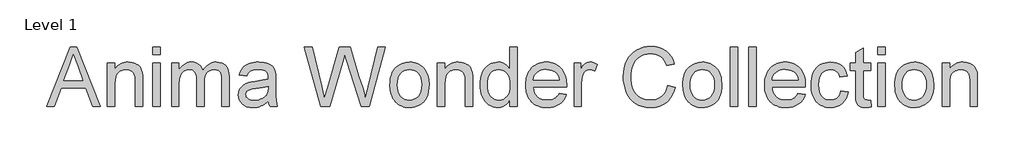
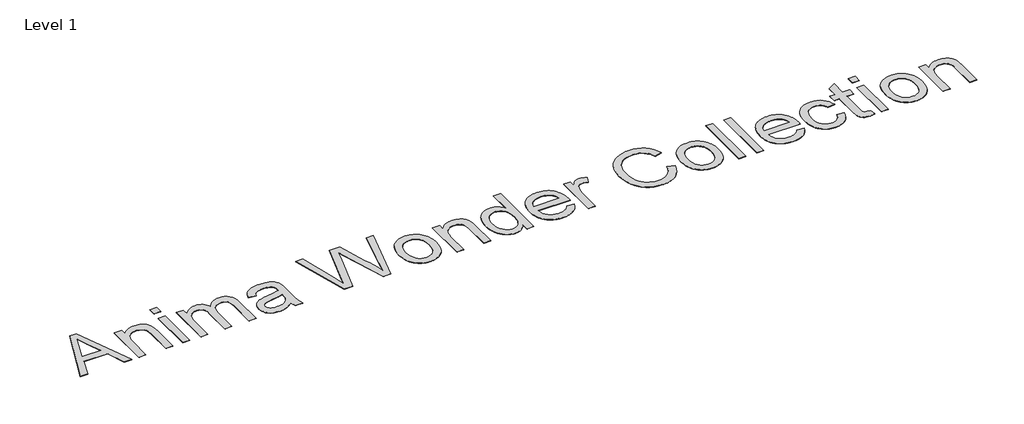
# One storey, part 5 of 7: 1 proxy.
"""IFC4 building model written with IfcOpenShell, lengths in millimetres."""

from ifc_helpers import new_model, si_unit, origin, origin_with_axes, place, context, project, spatial, polyline, outline, extrude, element, save

model = new_model("IFC4")

# Units and contexts
model_context = context("Model", 3, world=origin())
ifc_project = project(units=[si_unit("LENGTHUNIT", "METRE", prefix="MILLI")], contexts=[model_context])

# Site, building, storey
site = spatial("IfcSite", under=ifc_project)
building = spatial("IfcBuilding", under=site)
storey = spatial("IfcBuildingStorey", under=building, Name="Level 1", Elevation=0.0)

# Proxy
placement = place(None, origin())
element("IfcBuildingElementProxy", 1, Name="1000mm Arial", ObjectType="1000mm Arial", at=placement, inside=storey, context=model_context, shape_type="SweptSolid", body=[
    extrude(outline(polyline([(-16310.3058556, 15746.8260502), (-15909.3144809, 16751.3891517), (-15802.3834476, 16751.3891517), (-15401.6373275, 15746.8260502), (-15534.3201005, 15746.8260502), (-15649.099283, 16060.7520194), (-16063.0891549, 16060.7520194), (-16177.8683374, 15746.8260502), (-16310.3058556, 15746.8260502)]), holes=[polyline([(-16016.9812781, 16186.3224071), (-15694.961905, 16186.3224071), (-15785.7061305, 16433.2938532), (-15856.0942189, 16625.818764), (-15918.6341581, 16454.8762636), (-16016.9812781, 16186.3224071)])]), origin_with_axes(), (0.0, 0.0, 1.0), 5.0),
    extrude(outline(polyline([(-15283.1793251, 15746.8260502), (-15283.1793251, 16484.5520779), (-15157.6089374, 16484.5520779), (-15157.6089374, 16381.5451192), (-15136.8925825, 16409.3661951), (-15113.9842641, 16433.4777942), (-15088.8839822, 16453.8799165), (-15061.5917367, 16470.572562), (-15032.1075276, 16483.5557308), (-15000.431355, 16492.8294227), (-14966.5632188, 16498.3936379), (-14930.503119, 16500.2483763), (-14868.6069734, 16494.2702939), (-14839.6132736, 16486.7976909), (-14811.9224893, 16476.3360466), (-14786.5846169, 16463.4448484), (-14764.6496529, 16448.6835833), (-14746.1175974, 16432.0522515), (-14730.9884503, 16413.5508528), (-14708.1491098, 16371.0298255), (-14693.3418595, 16321.212472), (-14688.3754526, 16273.5717536), (-14686.7199836, 16199.8114136), (-14686.7199836, 15746.8260502), (-14812.2903713, 15746.8260502), (-14812.2903713, 16182.8888418), (-14815.9078775, 16247.820014), (-14826.7603964, 16293.9892043), (-14835.3826307, 16311.4559349), (-14846.7793083, 16327.0679271), (-14860.9504293, 16340.8251809), (-14877.8959937, 16352.7276962), (-14917.7805334, 16369.1904155), (-14964.1030079, 16374.6779886), (-15002.2324439, 16371.5969769), (-15037.6487501, 16362.3539418), (-15070.3519267, 16346.9488832), (-15100.3419735, 16325.3818013), (-15125.3962702, 16295.2001493), (-15143.2921964, 16253.9513805), (-15154.0297522, 16201.6354951), (-15157.6089374, 16138.2524931), (-15157.6089374, 15746.8260502), (-15283.1793251, 15746.8260502)])), origin_with_axes(), (0.0, 0.0, 1.0), 5.0),
    extrude(outline(polyline([(-14514.0607005, 16625.818764), (-14514.0607005, 16751.3891517), (-14388.4903128, 16751.3891517), (-14388.4903128, 16625.818764), (-14514.0607005, 16625.818764)])), origin_with_axes(), (0.0, 0.0, 1.0), 5.0),
    extrude(outline(polyline([(-14514.0607005, 15746.8260502), (-14514.0607005, 16484.5520779), (-14388.4903128, 16484.5520779), (-14388.4903128, 15746.8260502), (-14514.0607005, 15746.8260502)])), origin_with_axes(), (0.0, 0.0, 1.0), 5.0),
    extrude(outline(polyline([(-14200.1347313, 15746.8260502), (-14200.1347313, 16484.5520779), (-14074.5643436, 16484.5520779), (-14074.5643436, 16363.1510194), (-14057.0286352, 16392.543258), (-14036.7951254, 16418.9157985), (-14013.8638144, 16442.268641), (-13988.2347021, 16462.6017855), (-13960.3216557, 16479.072169), (-13930.5385425, 16490.8367286), (-13898.8853625, 16497.8954644), (-13865.3621157, 16500.2483763), (-13828.7118719, 16497.8494791), (-13795.5258503, 16490.6527876), (-13765.8040507, 16478.6583017), (-13739.5464733, 16461.8660215), (-13716.8297601, 16440.7511278), (-13697.7305532, 16415.7888016), (-13682.2488526, 16386.9790428), (-13670.3846582, 16354.3218516), (-13648.3040743, 16388.5233808), (-13624.6140067, 16418.1647061), (-13599.3144553, 16443.2458276), (-13572.4054202, 16463.7667451), (-13543.8869014, 16479.7274588), (-13513.7588988, 16491.1279685), (-13482.0214125, 16497.9682744), (-13448.6744425, 16500.2483763), (-13398.4049007, 16496.4545932), (-13354.2820539, 16485.073244), (-13316.3059021, 16466.1043286), (-13284.4764453, 16439.5478471), (-13259.3148497, 16405.0972311), (-13241.3422814, 16362.4459123), (-13230.5587404, 16311.5938907), (-13226.9642267, 16252.5411662), (-13226.9642267, 15746.8260502), (-13352.5346144, 15746.8260502), (-13352.5346144, 16198.5851403), (-13355.4470135, 16261.2170499), (-13364.1842109, 16303.4315089), (-13380.5549597, 16332.3409023), (-13406.368013, 16355.0576155), (-13439.5693631, 16369.7728954), (-13478.1050021, 16374.6779886), (-13513.6899209, 16371.5356632), (-13546.1325144, 16362.1086871), (-13575.4327824, 16346.3970602), (-13601.5907251, 16324.4007826), (-13623.1041576, 16295.4760607), (-13638.4708952, 16258.9791011), (-13647.6909377, 16214.9099038), (-13650.7642852, 16163.2684687), (-13650.7642852, 15746.8260502), (-13776.3346728, 15746.8260502), (-13776.3346728, 16212.5646561), (-13778.1510902, 16250.6097858), (-13783.6003423, 16283.5658812), (-13792.682429, 16311.4329423), (-13805.3973505, 16334.2109692), (-13822.2509444, 16351.9152902), (-13843.7490485, 16364.5612338), (-13869.8916627, 16372.1487999), (-13900.6787872, 16374.6779886), (-13925.3422093, 16372.9918628), (-13949.0552696, 16367.9334854), (-13971.817968, 16359.5028563), (-13993.6303047, 16347.6999756), (-14013.4959324, 16332.6474707), (-14030.4185042, 16314.4679687), (-14044.39802, 16293.1614699), (-14055.4344799, 16268.727974), (-14063.8037952, 16239.8645658), (-14069.7818777, 16205.2683298), (-14074.5643436, 16118.8773746), (-14074.5643436, 15746.8260502), (-14200.1347313, 15746.8260502)])), origin_with_axes(), (0.0, 0.0, 1.0), 5.0),
    extrude(outline(polyline([(-12567.7196914, 15841.003841), (-12597.4951403, 15813.0601377), (-12627.7151134, 15789.5616753), (-12658.3796105, 15770.5084536), (-12689.4886318, 15755.9004727), (-12721.3947306, 15745.0632823), (-12754.4504607, 15737.322432), (-12788.6558221, 15732.6779218), (-12824.0108147, 15731.1297517), (-12879.9212137, 15734.8545569), (-12928.9491538, 15746.0289725), (-12971.0946349, 15764.6529985), (-13006.3576569, 15790.7266349), (-13034.2017255, 15822.5944128), (-13054.0903458, 15858.6008631), (-13066.023518, 15898.7459858), (-13070.0012421, 15943.029781), (-13063.9925029, 15995.0850833), (-13056.4815788, 16019.3193097), (-13045.9662851, 16042.3579196), (-13018.1605376, 16082.8249391), (-12982.8132092, 16114.4627907), (-12941.2732006, 16138.3751204), (-12894.8894124, 16155.6655742), (-12849.7012407, 16165.2918197), (-12786.2415965, 16174.5501832), (-12657.8507802, 16194.415811), (-12608.2786813, 16205.6362118), (-12568.4554553, 16217.715004), (-12567.7196914, 16245.6740356), (-12569.8809981, 16276.1162708), (-12576.3649182, 16301.7147262), (-12587.1714519, 16322.4694021), (-12602.3005989, 16338.3802984), (-12628.4508774, 16354.2605379), (-12660.3033268, 16365.6035661), (-12697.8579472, 16372.409383), (-12741.1147384, 16374.6779886), (-12781.3365032, 16373.1681396), (-12815.9174108, 16368.6385925), (-12844.8574611, 16361.0893474), (-12868.1566541, 16350.5204043), (-12887.3018463, 16336.1040286), (-12903.779894, 16317.0124859), (-12917.5907972, 16293.2457762), (-12928.734556, 16264.8038994), (-13054.3049436, 16280.5001979), (-13044.747676, 16316.6752607), (-13032.5079354, 16349.1715036), (-13017.585722, 16377.9889266), (-12999.9810357, 16403.1275296), (-12978.9351199, 16425.0931504), (-12953.689218, 16444.3916267), (-12924.2433299, 16461.0229586), (-12890.5974558, 16474.987146), (-12853.4337101, 16486.0389342), (-12813.4342073, 16493.9330687), (-12770.5989475, 16498.6695494), (-12724.9279306, 16500.2483763), (-12640.0391602, 16494.6688327), (-12604.1936583, 16487.6944032), (-12572.747412, 16477.9302019), (-12522.0103535, 16452.7609421), (-12502.4589583, 16438.0379981), (-12486.7856524, 16421.8895113), (-12463.4251457, 16383.7217543), (-12448.2806703, 16336.6635158), (-12443.6821453, 16293.2534404), (-12442.1493037, 16226.7894266), (-12442.1493037, 16070.5622059), (-12440.5551484, 15934.4765246), (-12435.7726824, 15852.4081828), (-12426.3303779, 15798.4828137), (-12410.7567067, 15746.8260502), (-12536.3270944, 15746.8260502), (-12556.4379768, 15790.4813803), (-12567.7196914, 15841.003841)]), holes=[polyline([(-12567.7196914, 16092.1446163), (-12652.0872956, 16071.2366563), (-12770.3000434, 16053.6396342), (-12835.4458133, 16044.0133886), (-12878.3347226, 16033.2834971), (-12906.4470384, 16019.365295), (-12927.263028, 16000.1741175), (-12940.1388978, 15977.1814928), (-12944.4308544, 15951.8589488), (-12942.0932709, 15932.3458747), (-12935.0805204, 15914.5189263), (-12923.3926028, 15898.3781038), (-12907.0295182, 15883.9234071), (-12886.1445508, 15872.0132275), (-12860.8909847, 15863.5059563), (-12831.2688199, 15858.4015936), (-12797.2780563, 15856.7001394), (-12762.5745215, 15858.5778704), (-12729.8330239, 15864.2110635), (-12699.0535636, 15873.5997186), (-12670.2361407, 15886.7438357), (-12644.2391464, 15902.5550973), (-12621.920972, 15919.9451858), (-12603.2816176, 15938.9141011), (-12588.3210831, 15959.4618434), (-12579.629871, 15977.8559432), (-12573.4218623, 16000.1741175), (-12568.4554553, 16056.5826901), (-12567.7196914, 16092.1446163)])]), origin_with_axes(), (0.0, 0.0, 1.0), 5.0),
    extrude(outline(polyline([(-11681.6145923, 15746.8260502), (-11955.5640514, 16751.3891517), (-11826.0695891, 16751.3891517), (-11667.1445672, 16091.1635977), (-11618.0936345, 15887.3569723), (-11565.6091365, 16067.61915), (-11366.4623498, 16751.3891517), (-11179.8235509, 16751.3891517), (-11035.1232995, 16255.7294769), (-11002.090562, 16163.8202917), (-10973.1351833, 16071.7884793), (-10948.2571633, 15979.6340395), (-10927.4565022, 15887.3569723), (-10879.8770975, 16085.2774858), (-10719.7258023, 16751.3891517), (-10589.9860853, 16751.3891517), (-10863.6902897, 15746.8260502), (-10998.0898453, 15746.8260502), (-11239.1751794, 16521.8307867), (-11272.7750683, 16629.9880933), (-11310.5442865, 16499.757867), (-11530.0472103, 15746.8260502), (-11681.6145923, 15746.8260502)])), origin_with_axes(), (0.0, 0.0, 1.0), 5.0),
    extrude(outline(polyline([(-10511.504593, 16115.689064), (-10509.8069709, 16165.1117108), (-10504.7141045, 16211.2310839), (-10496.2259939, 16254.0471831), (-10484.342639, 16293.5600087), (-10469.0640399, 16329.7695605), (-10450.3901965, 16362.6758385), (-10428.3211089, 16392.2788428), (-10402.8567771, 16418.5785734), (-10355.0014609, 16454.3091122), (-10302.1797377, 16479.8309256), (-10244.3916077, 16495.1440136), (-10181.6370706, 16500.2483763), (-10146.169031, 16498.6944581), (-10112.3602924, 16494.0327034), (-10080.2108549, 16486.2631123), (-10049.7207185, 16475.3856848), (-10020.8898832, 16461.4004208), (-9993.718349, 16444.3073204), (-9968.2061158, 16424.1063836), (-9944.3531838, 16400.7976103), (-9922.7688573, 16374.7488826), (-9904.0624411, 16346.3280824), (-9888.233935, 16315.5352097), (-9875.2833392, 16282.3702647), (-9865.2106535, 16246.8332471), (-9858.015878, 16208.9241572), (-9852.2600576, 16125.9897599), (-9854.8045748, 16058.7746537), (-9862.4381262, 15999.1317852), (-9875.1607118, 15947.0611545), (-9892.9723318, 15902.5627615), (-9915.6507239, 15864.1267572), (-9942.9736263, 15830.2432926), (-9974.9410388, 15800.9123677), (-10011.5529615, 15776.1339825), (-10051.3838517, 15756.4446315), (-10093.0081666, 15742.3808094), (-10136.4259063, 15733.9425162), (-10181.6370706, 15731.1297517), (-10217.6645975, 15732.6779218), (-10251.9255243, 15737.322432), (-10284.4198512, 15745.0632823), (-10315.1475781, 15755.9004727), (-10344.1087049, 15769.8340033), (-10371.3032318, 15786.863874), (-10396.7311586, 15806.9900848), (-10420.3924855, 15830.2126358), (-10441.7468857, 15856.3475858), (-10460.2540325, 15885.210994), (-10475.913926, 15916.8028604), (-10488.7265661, 15951.1231848), (-10498.6919529, 15988.1719674), (-10505.8100863, 16027.9492082), (-10511.504593, 16115.689064)]), holes=[polyline([(-10385.9342053, 16115.9343187), (-10382.3013706, 16055.0268559), (-10371.4028665, 16002.289439), (-10353.238693, 15957.7220681), (-10327.8088501, 15921.3247432), (-10296.8761056, 15893.0514791), (-10262.2032276, 15872.8562904), (-10223.7902159, 15860.7391772), (-10181.6370706, 15856.7001394), (-10139.6985232, 15860.7621698), (-10101.4387957, 15872.9482609), (-10066.8578881, 15893.2584127), (-10035.9558006, 15921.6926252), (-10010.5259576, 15958.4501679), (-9992.3617841, 16003.7303102), (-9981.46328, 16057.5330519), (-9977.8304453, 16119.8583933), (-9981.4862726, 16178.8344757), (-9992.4537546, 16230.192335), (-10010.7328913, 16273.9319714), (-10036.3236825, 16310.0533848), (-10067.3407333, 16338.326649), (-10101.8986482, 16358.5218377), (-10139.9974273, 16370.6389509), (-10181.6370706, 16374.6779886), (-10223.7902159, 16370.6542793), (-10262.2032276, 16358.5831513), (-10296.8761056, 16338.4646047), (-10327.8088501, 16310.2986395), (-10353.238693, 16274.0086135), (-10371.4028665, 16229.5178847), (-10382.3013706, 16176.8264531), (-10385.9342053, 16115.9343187)])]), origin_with_axes(), (0.0, 0.0, 1.0), 5.0),
    extrude(outline(polyline([(-9710.9933715, 15746.8260502), (-9710.9933715, 16484.5520779), (-9585.4229838, 16484.5520779), (-9585.4229838, 16381.5451192), (-9564.7066289, 16409.3661951), (-9541.7983105, 16433.4777942), (-9516.6980286, 16453.8799165), (-9489.4057831, 16470.572562), (-9459.921574, 16483.5557308), (-9428.2454014, 16492.8294227), (-9394.3772652, 16498.3936379), (-9358.3171654, 16500.2483763), (-9296.4210197, 16494.2702939), (-9267.42732, 16486.7976909), (-9239.7365357, 16476.3360466), (-9214.3986632, 16463.4448484), (-9192.4636993, 16448.6835833), (-9173.9316438, 16432.0522515), (-9158.8024967, 16413.5508528), (-9135.9631562, 16371.0298255), (-9121.1559059, 16321.212472), (-9116.1894989, 16273.5717536), (-9114.53403, 16199.8114136), (-9114.53403, 15746.8260502), (-9240.1044177, 15746.8260502), (-9240.1044177, 16182.8888418), (-9243.7219239, 16247.820014), (-9254.5744428, 16293.9892043), (-9263.1966771, 16311.4559349), (-9274.5933547, 16327.0679271), (-9288.7644757, 16340.8251809), (-9305.7100401, 16352.7276962), (-9345.5945798, 16369.1904155), (-9391.9170543, 16374.6779886), (-9430.0464903, 16371.5969769), (-9465.4627965, 16362.3539418), (-9498.1659731, 16346.9488832), (-9528.1560199, 16325.3818013), (-9553.2103166, 16295.2001493), (-9571.1062428, 16253.9513805), (-9581.8437985, 16201.6354951), (-9585.4229838, 16138.2524931), (-9585.4229838, 15746.8260502), (-9710.9933715, 15746.8260502)])), origin_with_axes(), (0.0, 0.0, 1.0), 5.0),
    extrude(outline(polyline([(-8486.6820915, 15746.8260502), (-8486.6820915, 15865.2840526), (-8504.4745509, 15833.8416384), (-8524.2520403, 15806.591546), (-8546.0145596, 15783.5337755), (-8569.7621088, 15764.668327), (-8595.4946879, 15749.9952003), (-8623.212297, 15739.5143955), (-8652.914936, 15733.2259127), (-8684.6026049, 15731.1297517), (-8726.0506431, 15734.1647782), (-8765.7818985, 15743.2698576), (-8803.7963714, 15758.4449899), (-8840.0940616, 15779.6901751), (-8873.5406663, 15806.369284), (-8903.0018827, 15837.8461872), (-8928.4777109, 15874.1208847), (-8949.9681508, 15915.1933766), (-8967.0286783, 15960.2819137), (-8979.2147694, 16008.6047466), (-8986.5264241, 16060.1618754), (-8988.9636423, 16114.9533), (-8986.7180293, 16168.7407134), (-8979.9811902, 16219.9836097), (-8968.7531252, 16268.6819888), (-8953.0338341, 16314.8358507), (-8932.8309812, 16357.0962949), (-8908.1522307, 16394.1144207), (-8878.9975826, 16425.890228), (-8845.3670368, 16452.4237169), (-8808.4485458, 16473.3470054), (-8769.4300617, 16488.2922115), (-8728.3115845, 16497.2593351), (-8685.0931143, 16500.2483763), (-8653.4859195, 16498.1100622), (-8623.6568211, 16491.6951199), (-8595.6058189, 16481.0035494), (-8569.3329131, 16466.0353508), (-8545.1293435, 16447.6489152), (-8523.2863501, 16426.7026341), (-8503.8039327, 16403.1965075), (-8486.6820915, 16377.1305353), (-8486.6820915, 16751.3891517), (-8361.1117038, 16751.3891517), (-8361.1117038, 15746.8260502), (-8486.6820915, 15746.8260502)]), holes=[polyline([(-8863.3932546, 16115.4438094), (-8859.8523904, 16054.5516749), (-8849.2297978, 16001.8602433), (-8831.5254768, 15957.3695146), (-8806.7394273, 15921.0794886), (-8777.1402551, 15892.9135233), (-8744.9965658, 15872.7949767), (-8710.3083593, 15860.7238487), (-8673.0756358, 15856.7001394), (-8635.6666354, 15860.5399077), (-8601.1853625, 15872.0592127), (-8569.6318172, 15891.2580543), (-8541.0059995, 15918.1364326), (-8517.2392898, 15952.9089454), (-8500.2630685, 15995.7901904), (-8490.0773358, 16046.7801678), (-8486.6820915, 16105.8788775), (-8490.1386494, 16170.6720939), (-8500.5083232, 16226.2376036), (-8517.7911127, 16272.5754065), (-8541.9870181, 16309.6855028), (-8571.241301, 16338.1197154), (-8603.6992228, 16358.4298672), (-8639.3607837, 16370.6159583), (-8678.2259837, 16374.6779886), (-8716.1944713, 16370.7769066), (-8750.8826777, 16359.0736607), (-8782.2906031, 16339.5682507), (-8810.4182473, 16312.2606768), (-8833.594813, 16276.5531306), (-8850.1495028, 16231.847804), (-8860.0823166, 16178.1446969), (-8863.3932546, 16115.4438094)])]), origin_with_axes(), (0.0, 0.0, 1.0), 5.0),
    extrude(outline(polyline([(-7656.2498011, 15966.5742286), (-7533.13196, 15950.8779302), (-7552.0089049, 15901.5664144), (-7577.4923973, 15858.1103537), (-7609.5824372, 15820.5097481), (-7648.2790245, 15788.7645976), (-7693.1836206, 15763.5493526), (-7743.8976864, 15745.5384632), (-7800.4212222, 15734.7319296), (-7862.7542277, 15731.1297517), (-7902.772891, 15732.6836699), (-7940.6685686, 15737.3454246), (-7976.4412605, 15745.1150157), (-8010.0909668, 15755.9924432), (-8041.6176873, 15769.9777072), (-8071.0214222, 15787.0708076), (-8098.3021714, 15807.2717445), (-8123.459935, 15830.5805178), (-8146.0501887, 15856.6943913), (-8165.6284087, 15885.3106287), (-8182.1945948, 15916.4292302), (-8195.748747, 15950.0501957), (-8206.2908654, 15986.1735251), (-8213.82095, 16024.7992186), (-8218.3390008, 16065.927276), (-8219.8450177, 16109.5576974), (-8218.3236724, 16154.6730592), (-8213.7596364, 16197.1902544), (-8206.1529097, 16237.1092829), (-8195.5034923, 16274.4301449), (-8181.8113843, 16309.1528403), (-8165.0765857, 16341.2773691), (-8145.2990963, 16370.8037314), (-8122.4789163, 16397.731927), (-8097.2330144, 16421.7592198), (-8070.1783593, 16442.5828736), (-8041.3149511, 16460.2028883), (-8010.6427898, 16474.619264), (-7978.1618753, 16485.8320006), (-7943.8722076, 16493.8410982), (-7907.7737869, 16498.6465568), (-7869.866613, 16500.2483763), (-7833.1991247, 16498.6503889), (-7798.244587, 16493.8564266), (-7765.0029999, 16485.8664896), (-7733.4743632, 16474.6805776), (-7703.6586772, 16460.2986909), (-7675.5559416, 16442.7208293), (-7649.1661566, 16421.9469929), (-7624.4893222, 16397.9771817), (-7602.1577354, 16371.1102997), (-7582.8036936, 16341.6452511), (-7566.4271966, 16309.582036), (-7553.0282446, 16274.9206543), (-7542.6068375, 16237.6611059), (-7535.1629752, 16197.803391), (-7529.2078854, 16110.2934614), (-7529.9436494, 16076.4483179), (-8094.27463, 16076.4483179), (-8087.0012964, 16026.3397244), (-8072.5389355, 15982.4544681), (-8050.8875472, 15944.7925488), (-8022.0471316, 15913.3539667), (-7987.611844, 15888.5679172), (-7949.1758397, 15870.8635962), (-7906.7391188, 15860.2410036), (-7860.3016811, 15856.7001394), (-7825.5674894, 15858.34028), (-7793.4697853, 15863.2607017), (-7764.0085688, 15871.4614045), (-7737.18384, 15882.9423884), (-7712.9955988, 15898.0102218), (-7691.4438453, 15916.971473), (-7672.5285794, 15939.8261419), (-7656.2498011, 15966.5742286)]), holes=[polyline([(-8094.27463, 16202.0187056), (-7654.7782731, 16202.0187056), (-7661.2315364, 16237.5499749), (-7671.7621585, 16268.360092), (-7686.3701394, 16294.4490568), (-7705.0554791, 16315.8168694), (-7739.2991615, 16341.5686091), (-7778.2639962, 16359.9627088), (-7821.9499831, 16370.9991687), (-7870.3571223, 16374.6779886), (-7914.5106259, 16371.7425969), (-7955.000638, 16362.9364216), (-7991.8271586, 16348.2594628), (-8024.9901876, 16327.7117206), (-8052.8189277, 16302.2435566), (-8073.6425814, 16272.8053328), (-8087.4611489, 16239.3970491), (-8094.27463, 16202.0187056)])]), origin_with_axes(), (0.0, 0.0, 1.0), 5.0),
    extrude(outline(polyline([(-7403.6374977, 15746.8260502), (-7403.6374977, 16484.5520779), (-7293.7634085, 16484.5520779), (-7293.7634085, 16375.4137526), (-7253.1737617, 16438.6894558), (-7234.0745548, 16460.5784345), (-7215.7724255, 16475.9681646), (-7178.248462, 16494.1783234), (-7137.2909332, 16500.2483763), (-7106.143591, 16497.8264865), (-7074.750994, 16490.5608171), (-7043.1131425, 16478.4513681), (-7011.2300362, 16461.4981395), (-7053.1685837, 16348.926249), (-7097.3144231, 16368.2400537), (-7119.3873428, 16373.0685049), (-7141.4602625, 16374.6779886), (-7160.7050894, 16373.1298186), (-7178.9535692, 16368.4853084), (-7196.2057019, 16360.7444581), (-7212.4614876, 16349.9072676), (-7227.1077895, 16336.3262906), (-7239.531471, 16320.3540807), (-7257.710973, 16281.2359619), (-7272.9780758, 16211.0931281), (-7278.06711, 16134.5736731), (-7278.06711, 15746.8260502), (-7403.6374977, 15746.8260502)])), origin_with_axes(), (0.0, 0.0, 1.0), 5.0),
    extrude(outline(polyline([(-5818.3113532, 16103.9168402), (-5692.7409655, 16071.5432246), (-5717.5883286, 15993.4526069), (-5750.6823797, 15925.218161), (-5792.0231189, 15866.8398869), (-5815.7859966, 15841.3468143), (-5841.6105462, 15818.3177846), (-5898.3256871, 15780.1730202), (-5961.0495673, 15752.9267599), (-6029.7821867, 15736.5790038), (-6104.5235454, 15731.1297517), (-6181.0966499, 15735.2530958), (-6250.1741587, 15747.6231278), (-6311.7560718, 15768.239848), (-6365.8423893, 15797.1032562), (-6413.1765394, 15833.7841568), (-6454.5019502, 15877.8533541), (-6489.8186217, 15929.3108482), (-6519.126554, 15988.156639), (-6542.1421713, 16051.8462094), (-6558.581898, 16117.8350423), (-6568.445734, 16186.1231377), (-6571.7336793, 16256.7104955), (-6568.0165383, 16332.4482013), (-6556.8651153, 16403.1888433), (-6538.2794104, 16468.9324215), (-6512.2594234, 16529.6789359), (-6479.3876343, 16584.4243753), (-6440.2465229, 16632.1647284), (-6394.8360891, 16672.8999952), (-6343.156333, 16706.6301756), (-6286.9623582, 16733.0793582), (-6228.0092685, 16751.9716315), (-6166.2970638, 16763.3069955), (-6101.8257441, 16767.0854501), (-6030.0044488, 16762.1956853), (-5964.1459074, 16747.5263907), (-5904.2501201, 16723.0775665), (-5850.3170868, 16688.8492125), (-5803.2358556, 16645.7457054), (-5763.8954747, 16594.6714217), (-5732.2959442, 16535.6263615), (-5708.437264, 16468.6105247), (-5834.0076516, 16438.6894558), (-5853.7813089, 16488.0699494), (-5877.5403544, 16530.2614158), (-5905.2847882, 16565.2638548), (-5937.0146103, 16593.0772664), (-5972.9137617, 16614.2688022), (-6013.1661833, 16629.4056135), (-6057.7718752, 16638.4877002), (-6106.7308374, 16641.5150625), (-6163.0627679, 16638.1581393), (-6214.5815757, 16628.0873696), (-6261.2872606, 16611.3027536), (-6303.1798228, 16587.8042912), (-6339.7304319, 16558.649643), (-6370.4102574, 16524.89647), (-6395.2192995, 16486.544772), (-6414.157558, 16443.5945491), (-6428.1600665, 16397.9925101), (-6438.1618582, 16351.6853639), (-6444.1629333, 16304.6731106), (-6446.1632916, 16256.9557502), (-6443.7950513, 16196.990985), (-6436.6903302, 16140.9502944), (-6424.8491285, 16088.8336784), (-6408.2714461, 16040.641137), (-6386.6890357, 15997.3306963), (-6359.8336501, 15959.8603822), (-6327.7052892, 15928.2301949), (-6290.303953, 15902.4401341), (-6249.4460589, 15882.4288865), (-6206.9480243, 15868.1351381), (-6162.809849, 15859.5588891), (-6117.0315333, 15856.7001394), (-6062.439378, 15860.5935572), (-6012.2158215, 15872.2738105), (-5966.3608636, 15891.7408995), (-5924.8745045, 15918.9948239), (-5888.7377626, 15953.9129566), (-5858.9316568, 15996.3726703), (-5835.456187, 16046.3739648), (-5818.3113532, 16103.9168402)])), origin_with_axes(), (0.0, 0.0, 1.0), 5.0),
    extrude(outline(polyline([(-5567.1705778, 16115.689064), (-5565.4729557, 16165.1117108), (-5560.3800893, 16211.2310839), (-5551.8919787, 16254.0471831), (-5540.0086238, 16293.5600087), (-5524.7300247, 16329.7695605), (-5506.0561814, 16362.6758385), (-5483.9870938, 16392.2788428), (-5458.5227619, 16418.5785734), (-5410.6674457, 16454.3091122), (-5357.8457226, 16479.8309256), (-5300.0575925, 16495.1440136), (-5237.3030555, 16500.2483763), (-5201.8350158, 16498.6944581), (-5168.0262772, 16494.0327034), (-5135.8768398, 16486.2631123), (-5105.3867034, 16475.3856848), (-5076.555868, 16461.4004208), (-5049.3843338, 16444.3073204), (-5023.8721006, 16424.1063836), (-5000.0191686, 16400.7976103), (-4978.4348421, 16374.7488826), (-4959.7284259, 16346.3280824), (-4943.8999198, 16315.5352097), (-4930.949324, 16282.3702647), (-4920.8766383, 16246.8332471), (-4913.6818628, 16208.9241572), (-4907.9260425, 16125.9897599), (-4910.4705596, 16058.7746537), (-4918.104111, 15999.1317852), (-4930.8266966, 15947.0611545), (-4948.6383166, 15902.5627615), (-4971.3167087, 15864.1267572), (-4998.6396111, 15830.2432926), (-5030.6070236, 15800.9123677), (-5067.2189464, 15776.1339825), (-5107.0498365, 15756.4446315), (-5148.6741515, 15742.3808094), (-5192.0918911, 15733.9425162), (-5237.3030555, 15731.1297517), (-5273.3305823, 15732.6779218), (-5307.5915092, 15737.322432), (-5340.085836, 15745.0632823), (-5370.8135629, 15755.9004727), (-5399.7746897, 15769.8340033), (-5426.9692166, 15786.863874), (-5452.3971435, 15806.9900848), (-5476.0584703, 15830.2126358), (-5497.4128705, 15856.3475858), (-5515.9200174, 15885.210994), (-5531.5799108, 15916.8028604), (-5544.3925509, 15951.1231848), (-5554.3579377, 15988.1719674), (-5561.4760711, 16027.9492082), (-5567.1705778, 16115.689064)]), holes=[polyline([(-5441.6001901, 16115.9343187), (-5437.9673554, 16055.0268559), (-5427.0688513, 16002.289439), (-5408.9046778, 15957.7220681), (-5383.4748349, 15921.3247432), (-5352.5420905, 15893.0514791), (-5317.8692124, 15872.8562904), (-5279.4562007, 15860.7391772), (-5237.3030555, 15856.7001394), (-5195.364508, 15860.7621698), (-5157.1047805, 15872.9482609), (-5122.523873, 15893.2584127), (-5091.6217854, 15921.6926252), (-5066.1919425, 15958.4501679), (-5048.0277689, 16003.7303102), (-5037.1292648, 16057.5330519), (-5033.4964301, 16119.8583933), (-5037.1522575, 16178.8344757), (-5048.1197394, 16230.192335), (-5066.3988761, 16273.9319714), (-5091.9896674, 16310.0533848), (-5123.0067181, 16338.326649), (-5157.564633, 16358.5218377), (-5195.6634121, 16370.6389509), (-5237.3030555, 16374.6779886), (-5279.4562007, 16370.6542793), (-5317.8692124, 16358.5831513), (-5352.5420905, 16338.4646047), (-5383.4748349, 16310.2986395), (-5408.9046778, 16274.0086135), (-5427.0688513, 16229.5178847), (-5437.9673554, 16176.8264531), (-5441.6001901, 16115.9343187)])]), origin_with_axes(), (0.0, 0.0, 1.0), 5.0),
    extrude(outline(polyline([(-4766.6593563, 15746.8260502), (-4766.6593563, 16751.3891517), (-4641.0889686, 16751.3891517), (-4641.0889686, 15746.8260502), (-4766.6593563, 15746.8260502)])), origin_with_axes(), (0.0, 0.0, 1.0), 5.0),
    extrude(outline(polyline([(-4452.7333871, 15746.8260502), (-4452.7333871, 16751.3891517), (-4327.1629994, 16751.3891517), (-4327.1629994, 15746.8260502), (-4452.7333871, 15746.8260502)])), origin_with_axes(), (0.0, 0.0, 1.0), 5.0),
    extrude(outline(polyline([(-3622.3010966, 15966.5742286), (-3499.1832556, 15950.8779302), (-3518.0602005, 15901.5664144), (-3543.5436928, 15858.1103537), (-3575.6337327, 15820.5097481), (-3614.3303201, 15788.7645976), (-3659.2349161, 15763.5493526), (-3709.948982, 15745.5384632), (-3766.4725177, 15734.7319296), (-3828.8055233, 15731.1297517), (-3868.8241866, 15732.6836699), (-3906.7198642, 15737.3454246), (-3942.4925561, 15745.1150157), (-3976.1422623, 15755.9924432), (-4007.6689829, 15769.9777072), (-4037.0727178, 15787.0708076), (-4064.353467, 15807.2717445), (-4089.5112305, 15830.5805178), (-4112.1014843, 15856.6943913), (-4131.6797042, 15885.3106287), (-4148.2458903, 15916.4292302), (-4161.8000426, 15950.0501957), (-4172.342161, 15986.1735251), (-4179.8722456, 16024.7992186), (-4184.3902963, 16065.927276), (-4185.8963132, 16109.5576974), (-4184.3749679, 16154.6730592), (-4179.8109319, 16197.1902544), (-4172.2042052, 16237.1092829), (-4161.5547879, 16274.4301449), (-4147.8626799, 16309.1528403), (-4131.1278812, 16341.2773691), (-4111.3503919, 16370.8037314), (-4088.5302119, 16397.731927), (-4063.2843099, 16421.7592198), (-4036.2296549, 16442.5828736), (-4007.3662467, 16460.2028883), (-3976.6940853, 16474.619264), (-3944.2131708, 16485.8320006), (-3909.9235032, 16493.8410982), (-3873.8250824, 16498.6465568), (-3835.9179085, 16500.2483763), (-3799.2504203, 16498.6503889), (-3764.2958826, 16493.8564266), (-3731.0542954, 16485.8664896), (-3699.5256588, 16474.6805776), (-3669.7099727, 16460.2986909), (-3641.6072372, 16442.7208293), (-3615.2174522, 16421.9469929), (-3590.5406177, 16397.9771817), (-3568.209031, 16371.1102997), (-3548.8549891, 16341.6452511), (-3532.4784922, 16309.582036), (-3519.0795402, 16274.9206543), (-3508.658133, 16237.6611059), (-3501.2142708, 16197.803391), (-3495.259181, 16110.2934614), (-3495.994945, 16076.4483179), (-4060.3259256, 16076.4483179), (-4053.0525919, 16026.3397244), (-4038.590231, 15982.4544681), (-4016.9388428, 15944.7925488), (-3988.0984272, 15913.3539667), (-3953.6631396, 15888.5679172), (-3915.2271353, 15870.8635962), (-3872.7904143, 15860.2410036), (-3826.3529766, 15856.7001394), (-3791.6187849, 15858.34028), (-3759.5210808, 15863.2607017), (-3730.0598644, 15871.4614045), (-3703.2351356, 15882.9423884), (-3679.0468944, 15898.0102218), (-3657.4951408, 15916.971473), (-3638.5798749, 15939.8261419), (-3622.3010966, 15966.5742286)]), holes=[polyline([(-4060.3259256, 16202.0187056), (-3620.8295687, 16202.0187056), (-3627.282832, 16237.5499749), (-3637.8134541, 16268.360092), (-3652.421435, 16294.4490568), (-3671.1067747, 16315.8168694), (-3705.3504571, 16341.5686091), (-3744.3152917, 16359.9627088), (-3788.0012786, 16370.9991687), (-3836.4084178, 16374.6779886), (-3880.5619215, 16371.7425969), (-3921.0519336, 16362.9364216), (-3957.8784541, 16348.2594628), (-3991.0414831, 16327.7117206), (-4018.8702232, 16302.2435566), (-4039.693877, 16272.8053328), (-4053.5124444, 16239.3970491), (-4060.3259256, 16202.0187056)])]), origin_with_axes(), (0.0, 0.0, 1.0), 5.0),
    extrude(outline(polyline([(-2898.7998395, 16013.663124), (-2773.2294518, 15997.9668256), (-2786.8870708, 15938.7148317), (-2808.239555, 15886.2839832), (-2837.2869042, 15840.67428), (-2874.0291184, 15801.8857221), (-2916.9180277, 15770.9299851), (-2964.4054619, 15748.8187443), (-3016.4914211, 15735.5519999), (-3073.1759052, 15731.1297517), (-3109.2992346, 15732.6721736), (-3143.6023146, 15737.2994394), (-3176.0851452, 15745.0115489), (-3206.7477263, 15755.8085022), (-3235.5900579, 15769.6902994), (-3262.6121401, 15786.6569404), (-3287.8139728, 15806.7084252), (-3311.1955561, 15829.8447538), (-3332.2625484, 15855.8628247), (-3350.5206085, 15884.5595363), (-3365.9697362, 15915.9348888), (-3378.6099317, 15949.988882), (-3388.4411948, 15986.721516), (-3395.4635256, 16026.1327908), (-3401.0813902, 16112.9912627), (-3398.682493, 16170.7257433), (-3391.4858015, 16224.7354188), (-3379.4913156, 16275.020289), (-3362.6990354, 16321.580354), (-3340.9939977, 16363.4805804), (-3314.2612393, 16399.7859348), (-3282.5007604, 16430.4964172), (-3245.7125609, 16455.6120276), (-3205.559774, 16475.1404301), (-3163.7055328, 16489.0892891), (-3120.1498374, 16497.4586045), (-3074.8926878, 16500.2483763), (-3019.1815582, 16496.4162722), (-2968.789389, 16484.9199598), (-2923.7161804, 16465.7594393), (-2883.9619323, 16438.9347104), (-2850.2010951, 16405.0589101), (-2823.108119, 16364.7451748), (-2802.683004, 16317.9935045), (-2788.9257502, 16264.8038994), (-2914.4961379, 16249.1076009), (-2924.2986602, 16278.4385258), (-2937.2741648, 16303.8913614), (-2953.4226515, 16325.4661076), (-2972.7441205, 16343.1627644), (-2994.7480623, 16356.950675), (-3018.9439677, 16366.7991826), (-3045.3318367, 16372.7082871), (-3073.9116692, 16374.6779886), (-3116.5783164, 16370.7998993), (-3155.0603059, 16359.1656312), (-3189.3576378, 16339.7751843), (-3219.4703119, 16312.6285588), (-3243.9881141, 16277.0972894), (-3261.5008299, 16232.5529112), (-3272.0084594, 16178.995424), (-3275.5110025, 16116.424828), (-3272.0851014, 16052.9115344), (-3261.8073982, 15998.7332464), (-3244.6778928, 15953.889964), (-3220.6965852, 15918.3816873), (-3191.1817193, 15891.3960101), (-3157.4515389, 15872.1205264), (-3119.5060439, 15860.5552362), (-3077.3452345, 15856.7001394), (-3043.3697994, 15859.1067008), (-3012.3220918, 15866.326385), (-2984.2021118, 15878.3591919), (-2959.0098593, 15895.2051216), (-2937.4504416, 15917.048115), (-2920.2289657, 15944.0721133), (-2907.3454316, 15976.2771163), (-2898.7998395, 16013.663124)])), origin_with_axes(), (0.0, 0.0, 1.0), 5.0),
    extrude(outline(polyline([(-2396.5182887, 15851.5497915), (-2380.8219902, 15743.1472302), (-2430.5473733, 15734.1341214), (-2474.7545264, 15731.1297517), (-2535.0258599, 15736.3414133), (-2559.4133705, 15742.8559903), (-2579.968777, 15751.9763981), (-2611.7292559, 15776.0726688), (-2623.4708229, 15790.5580224), (-2632.453275, 15806.6681881), (-2639.1058077, 15828.2659269), (-2643.8576168, 15859.2139997), (-2647.6590641, 15949.1611475), (-2647.6590641, 16358.9816902), (-2741.8368548, 16358.9816902), (-2741.8368548, 16484.5520779), (-2647.6590641, 16484.5520779), (-2647.6590641, 16663.8332368), (-2522.0886764, 16737.6548905), (-2522.0886764, 16484.5520779), (-2396.5182887, 16484.5520779), (-2396.5182887, 16358.9816902), (-2522.0886764, 16358.9816902), (-2522.0886764, 15952.8399675), (-2520.4332074, 15911.5145567), (-2515.4668005, 15888.0927363), (-2506.7909168, 15875.124896), (-2494.0070174, 15865.1614253), (-2475.8888292, 15858.8154609), (-2451.2100787, 15856.7001394), (-2396.5182887, 15851.5497915)])), origin_with_axes(), (0.0, 0.0, 1.0), 5.0),
    extrude(outline(polyline([(-2270.947901, 16625.818764), (-2270.947901, 16751.3891517), (-2145.3775133, 16751.3891517), (-2145.3775133, 16625.818764), (-2270.947901, 16625.818764)])), origin_with_axes(), (0.0, 0.0, 1.0), 5.0),
    extrude(outline(polyline([(-2270.947901, 15746.8260502), (-2270.947901, 16484.5520779), (-2145.3775133, 16484.5520779), (-2145.3775133, 15746.8260502), (-2270.947901, 15746.8260502)])), origin_with_axes(), (0.0, 0.0, 1.0), 5.0),
    extrude(outline(polyline([(-1988.4145287, 16115.689064), (-1986.7169066, 16165.1117108), (-1981.6240402, 16211.2310839), (-1973.1359296, 16254.0471831), (-1961.2525747, 16293.5600087), (-1945.9739756, 16329.7695605), (-1927.3001323, 16362.6758385), (-1905.2310447, 16392.2788428), (-1879.7667128, 16418.5785734), (-1831.9113966, 16454.3091122), (-1779.0896735, 16479.8309256), (-1721.3015434, 16495.1440136), (-1658.5470064, 16500.2483763), (-1623.0789667, 16498.6944581), (-1589.2702282, 16494.0327034), (-1557.1207907, 16486.2631123), (-1526.6306543, 16475.3856848), (-1497.799819, 16461.4004208), (-1470.6282847, 16444.3073204), (-1445.1160516, 16424.1063836), (-1421.2631195, 16400.7976103), (-1399.6787931, 16374.7488826), (-1380.9723768, 16346.3280824), (-1365.1438708, 16315.5352097), (-1352.1932749, 16282.3702647), (-1342.1205892, 16246.8332471), (-1334.9258138, 16208.9241572), (-1329.1699934, 16125.9897599), (-1331.7145105, 16058.7746537), (-1339.3480619, 15999.1317852), (-1352.0706476, 15947.0611545), (-1369.8822675, 15902.5627615), (-1392.5606597, 15864.1267572), (-1419.883562, 15830.2432926), (-1451.8509746, 15800.9123677), (-1488.4628973, 15776.1339825), (-1528.2937875, 15756.4446315), (-1569.9181024, 15742.3808094), (-1613.335842, 15733.9425162), (-1658.5470064, 15731.1297517), (-1694.5745332, 15732.6779218), (-1728.8354601, 15737.322432), (-1761.3297869, 15745.0632823), (-1792.0575138, 15755.9004727), (-1821.0186407, 15769.8340033), (-1848.2131675, 15786.863874), (-1873.6410944, 15806.9900848), (-1897.3024213, 15830.2126358), (-1918.6568214, 15856.3475858), (-1937.1639683, 15885.210994), (-1952.8238617, 15916.8028604), (-1965.6365019, 15951.1231848), (-1975.6018886, 15988.1719674), (-1982.720022, 16027.9492082), (-1988.4145287, 16115.689064)]), holes=[polyline([(-1862.844141, 16115.9343187), (-1859.2113063, 16055.0268559), (-1848.3128022, 16002.289439), (-1830.1486287, 15957.7220681), (-1804.7187858, 15921.3247432), (-1773.7860414, 15893.0514791), (-1739.1131633, 15872.8562904), (-1700.7001517, 15860.7391772), (-1658.5470064, 15856.7001394), (-1616.6084589, 15860.7621698), (-1578.3487314, 15872.9482609), (-1543.7678239, 15893.2584127), (-1512.8657363, 15921.6926252), (-1487.4358934, 15958.4501679), (-1469.2717199, 16003.7303102), (-1458.3732158, 16057.5330519), (-1454.7403811, 16119.8583933), (-1458.3962084, 16178.8344757), (-1469.3636904, 16230.192335), (-1487.642827, 16273.9319714), (-1513.2336183, 16310.0533848), (-1544.250669, 16338.326649), (-1578.8085839, 16358.5218377), (-1616.9073631, 16370.6389509), (-1658.5470064, 16374.6779886), (-1700.7001517, 16370.6542793), (-1739.1131633, 16358.5831513), (-1773.7860414, 16338.4646047), (-1804.7187858, 16310.2986395), (-1830.1486287, 16274.0086135), (-1848.3128022, 16229.5178847), (-1859.2113063, 16176.8264531), (-1862.844141, 16115.9343187)])]), origin_with_axes(), (0.0, 0.0, 1.0), 5.0),
    extrude(outline(polyline([(-1187.9033072, 15746.8260502), (-1187.9033072, 16484.5520779), (-1062.3329195, 16484.5520779), (-1062.3329195, 16381.5451192), (-1041.6165647, 16409.3661951), (-1018.7082463, 16433.4777942), (-993.6079643, 16453.8799165), (-966.3157188, 16470.572562), (-936.8315097, 16483.5557308), (-905.1553371, 16492.8294227), (-871.2872009, 16498.3936379), (-835.2271012, 16500.2483763), (-773.3309555, 16494.2702939), (-744.3372557, 16486.7976909), (-716.6464714, 16476.3360466), (-691.308599, 16463.4448484), (-669.373635, 16448.6835833), (-650.8415795, 16432.0522515), (-635.7124325, 16413.5508528), (-612.8730919, 16371.0298255), (-598.0658416, 16321.212472), (-593.0994347, 16273.5717536), (-591.4439657, 16199.8114136), (-591.4439657, 15746.8260502), (-717.0143534, 15746.8260502), (-717.0143534, 16182.8888418), (-720.6318597, 16247.820014), (-731.4843785, 16293.9892043), (-740.1066128, 16311.4559349), (-751.5032904, 16327.0679271), (-765.6744115, 16340.8251809), (-782.6199759, 16352.7276962), (-822.5045155, 16369.1904155), (-868.8269901, 16374.6779886), (-906.956426, 16371.5969769), (-942.3727323, 16362.3539418), (-975.0759088, 16346.9488832), (-1005.0659556, 16325.3818013), (-1030.1202523, 16295.2001493), (-1048.0161786, 16253.9513805), (-1058.7537343, 16201.6354951), (-1062.3329195, 16138.2524931), (-1062.3329195, 15746.8260502), (-1187.9033072, 15746.8260502)])), origin_with_axes(), (0.0, 0.0, 1.0), 5.0),
])

save(model, "model.ifc")
